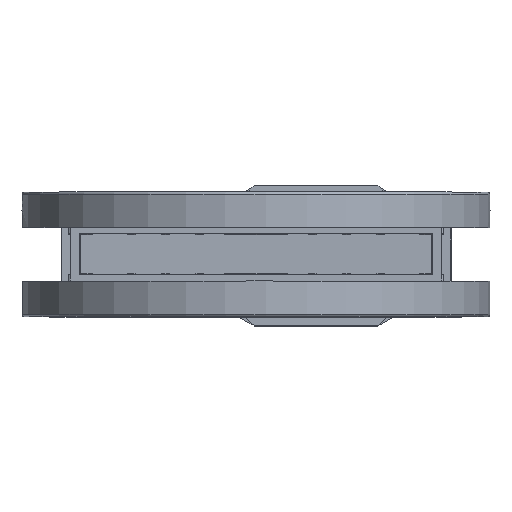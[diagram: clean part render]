
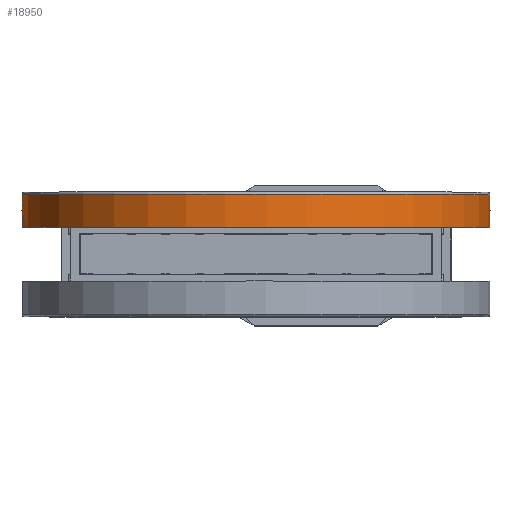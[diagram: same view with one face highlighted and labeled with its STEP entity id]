
A CAD part, top view. The second image highlights one B-rep face of the part: STEP entity #18950.
In plain terms, the highlighted cylindrical face has radius 150 mm (diameter 300 mm), a full revolution.
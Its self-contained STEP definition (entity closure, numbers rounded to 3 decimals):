
#5410=ELLIPSE('',#46179,264.77,150.);
#5411=ELLIPSE('',#46181,264.77,150.);
#5412=ELLIPSE('',#46185,264.77,150.);
#5413=ELLIPSE('',#46186,264.77,150.);
#18950=ADVANCED_FACE('',(#21153,#21154,#21155,#21156),#20567,.T.);
#20567=CYLINDRICAL_SURFACE('',#46187,150.);
#21153=FACE_BOUND('',#22825,.T.);
#21154=FACE_BOUND('',#22826,.T.);
#21155=FACE_BOUND('',#22827,.T.);
#21156=FACE_BOUND('',#22828,.T.);
#22825=EDGE_LOOP('',(#28358,#28359,#28360));
#22826=EDGE_LOOP('',(#28361));
#22827=EDGE_LOOP('',(#28362));
#22828=EDGE_LOOP('',(#28363,#28364,#28365));
#28358=ORIENTED_EDGE('',*,*,#40839,.F.);
#28359=ORIENTED_EDGE('',*,*,#40840,.F.);
#28360=ORIENTED_EDGE('',*,*,#40841,.F.);
#28361=ORIENTED_EDGE('',*,*,#40842,.T.);
#28362=ORIENTED_EDGE('',*,*,#40843,.F.);
#28363=ORIENTED_EDGE('',*,*,#40844,.T.);
#28364=ORIENTED_EDGE('',*,*,#40845,.T.);
#28365=ORIENTED_EDGE('',*,*,#40846,.T.);
#36658=VERTEX_POINT('',#62181);
#36659=VERTEX_POINT('',#62182);
#36660=VERTEX_POINT('',#62184);
#36661=VERTEX_POINT('',#62187);
#36662=VERTEX_POINT('',#62189);
#36663=VERTEX_POINT('',#62191);
#36664=VERTEX_POINT('',#62192);
#36665=VERTEX_POINT('',#62194);
#40839=EDGE_CURVE('',#36658,#36659,#5410,.T.);
#40840=EDGE_CURVE('',#36660,#36658,#44511,.T.);
#40841=EDGE_CURVE('',#36659,#36660,#5411,.T.);
#40842=EDGE_CURVE('',#36661,#36661,#44512,.T.);
#40843=EDGE_CURVE('',#36662,#36662,#44513,.T.);
#40844=EDGE_CURVE('',#36663,#36664,#44514,.T.);
#40845=EDGE_CURVE('',#36664,#36665,#5412,.T.);
#40846=EDGE_CURVE('',#36665,#36663,#5413,.T.);
#44511=CIRCLE('',#46180,150.);
#44512=CIRCLE('',#46182,150.);
#44513=CIRCLE('',#46183,150.);
#44514=CIRCLE('',#46184,150.);
#46179=AXIS2_PLACEMENT_3D('',#62180,#51453,#51454);
#46180=AXIS2_PLACEMENT_3D('',#62183,#51455,#51456);
#46181=AXIS2_PLACEMENT_3D('',#62185,#51457,#51458);
#46182=AXIS2_PLACEMENT_3D('',#62186,#51459,#51460);
#46183=AXIS2_PLACEMENT_3D('',#62188,#51461,#51462);
#46184=AXIS2_PLACEMENT_3D('',#62190,#51463,#51464);
#46185=AXIS2_PLACEMENT_3D('',#62193,#51465,#51466);
#46186=AXIS2_PLACEMENT_3D('',#62195,#51467,#51468);
#46187=AXIS2_PLACEMENT_3D('',#62196,#51469,#51470);
#51453=DIRECTION('',(0.,0.567,0.824));
#51454=DIRECTION('',(0.,-0.824,0.567));
#51455=DIRECTION('',(0.,-1.,0.));
#51456=DIRECTION('',(0.,0.,1.));
#51457=DIRECTION('',(0.,0.567,-0.824));
#51458=DIRECTION('',(0.,-0.824,-0.567));
#51459=DIRECTION('',(0.,-1.,0.));
#51460=DIRECTION('',(0.924,0.,-0.383));
#51461=DIRECTION('',(0.,-1.,0.));
#51462=DIRECTION('',(0.924,0.,-0.383));
#51463=DIRECTION('',(0.,1.,0.));
#51464=DIRECTION('',(0.,0.,-1.));
#51465=DIRECTION('',(0.,-0.567,-0.824));
#51466=DIRECTION('',(0.,-0.824,0.567));
#51467=DIRECTION('',(0.,-0.567,0.824));
#51468=DIRECTION('',(0.,-0.824,-0.567));
#51469=DIRECTION('',(0.,-1.,0.));
#51470=DIRECTION('',(0.924,0.,-0.383));
#62180=CARTESIAN_POINT('',(0.,27.95,412.));
#62181=CARTESIAN_POINT('',(-149.975,31.95,409.25));
#62182=CARTESIAN_POINT('',(-150.,27.95,412.));
#62183=CARTESIAN_POINT('',(0.,31.95,412.));
#62184=CARTESIAN_POINT('',(-149.975,31.95,414.75));
#62185=CARTESIAN_POINT('',(0.,27.95,412.));
#62186=CARTESIAN_POINT('',(0.,38.45,412.));
#62187=CARTESIAN_POINT('',(138.582,38.45,354.597));
#62188=CARTESIAN_POINT('',(0.,17.25,412.));
#62189=CARTESIAN_POINT('',(138.582,17.25,354.597));
#62190=CARTESIAN_POINT('',(0.,31.95,412.));
#62191=CARTESIAN_POINT('',(149.975,31.95,414.75));
#62192=CARTESIAN_POINT('',(149.975,31.95,409.25));
#62193=CARTESIAN_POINT('',(0.,27.95,412.));
#62194=CARTESIAN_POINT('',(150.,27.95,412.));
#62195=CARTESIAN_POINT('',(0.,27.95,412.));
#62196=CARTESIAN_POINT('',(0.,22.25,412.));
